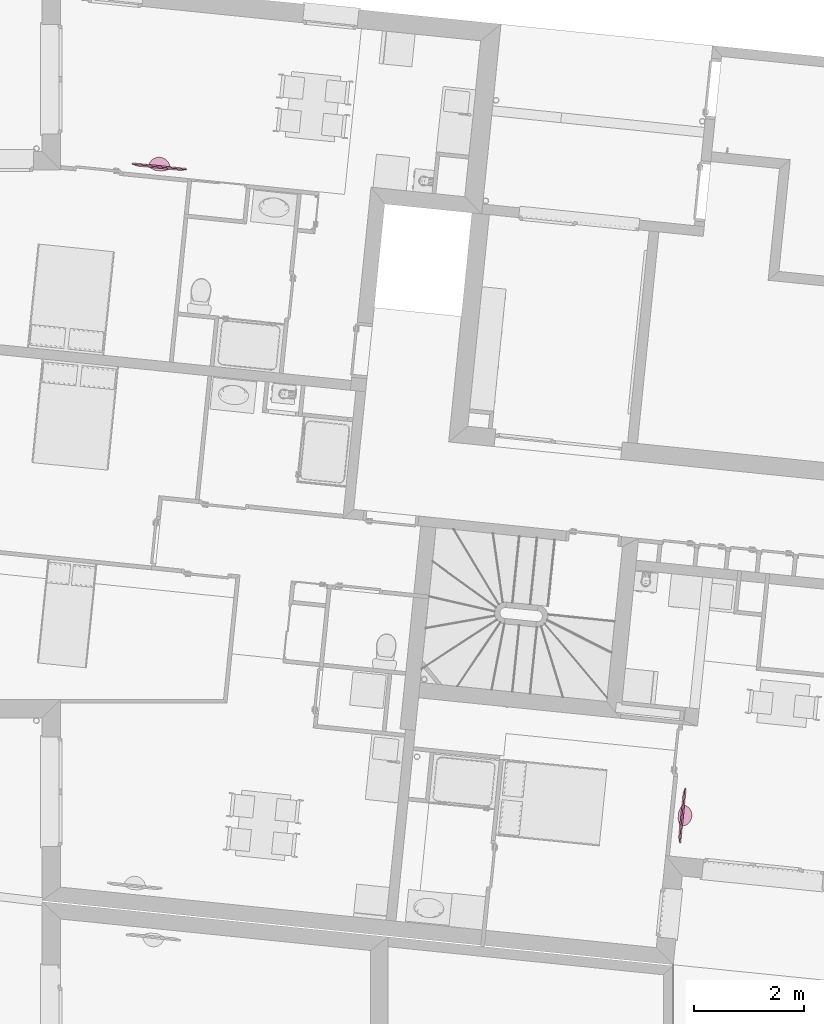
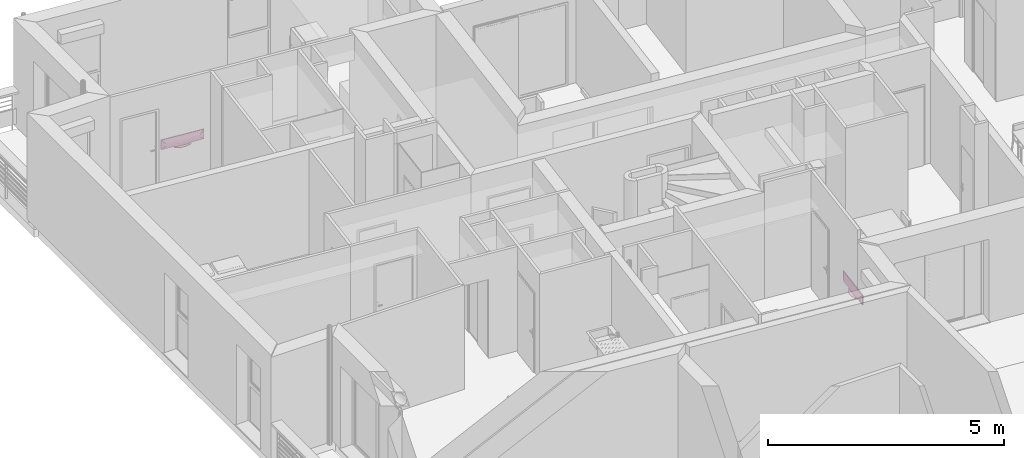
# One storey, part 139 of 171: 2 furnishings.
"""IFC2X3 building model written with IfcOpenShell, lengths in millimetres."""

import ifcopenshell
import ifcopenshell.guid

model = None  # the IFC model being written
_history = None  # IfcOwnerHistory: only IFC2X3 demands one
_inside = {}  # id of a spatial element -> (the spatial element, [elements in it])
_under = {}  # id of a project, library or spatial element -> (it, [spatial elements below it])
_declared = {}  # id of a project -> (the project, [libraries it declares])
_typed = {}  # id of a type object -> (the type object, [elements of that type])
_made_of = {}  # id of a material, layer set ... -> (it, [elements and type objects made of it])


def new_model(schema):
    """Start an empty IFC model of exactly this schema.

    Asked for "IFC4X3", IfcOpenShell would pick the latest addendum, in which some entities
    have other attributes; the version numbers below select the first issue.
    IFC2X3 requires an IfcOwnerHistory on every rooted entity: one is made here for all.
    """
    global model, _history
    if schema == "IFC4X3":
        model = ifcopenshell.file(schema_version=(4, 3, 0, 0))
    else:
        model = ifcopenshell.file(schema=schema)
    _inside.clear()
    _under.clear()
    _declared.clear()
    _typed.clear()
    _made_of.clear()
    _history = None
    if model.schema == "IFC2X3":
        org = make("IfcOrganization", Name="unknown")
        user = make(
            "IfcPersonAndOrganization",
            ThePerson=make("IfcPerson", FamilyName="unknown"),
            TheOrganization=org,
        )
        app = make(
            "IfcApplication",
            ApplicationDeveloper=org,
            Version="unknown",
            ApplicationFullName="unknown",
            ApplicationIdentifier="unknown",
        )
        _history = make(
            "IfcOwnerHistory",
            OwningUser=user,
            OwningApplication=app,
            ChangeAction="ADDED",
            CreationDate=0,
        )
    return model


def make(cls, **values):
    """One entity of the class cls with the attributes given. An attribute that is None is left unset."""
    return model.create_entity(
        cls, **{name: value for name, value in values.items() if value is not None}
    )


def entity(cls, *values):
    """Any entity or typed value of the class cls, its attributes in the order of the schema. None: left unset."""
    e = model.create_entity(cls)
    for i, value in enumerate(values):
        if value is not None:
            e[i] = value
    return e


def rooted(cls, **values):
    """An entity with a GlobalId (a new one), such as an element, a storey or a relation."""
    return make(cls, GlobalId=ifcopenshell.guid.new(), OwnerHistory=_history, **values)


def si_unit(unit_type, name, prefix=None):
    """IfcSIUnit, for example si_unit("LENGTHUNIT", "METRE", prefix="MILLI")."""
    return make("IfcSIUnit", UnitType=unit_type, Prefix=prefix, Name=name)


def converted_unit(unit_type, name, factor, base, dimensions=None, offset=None):
    """IfcConversionBasedUnit, such as the inch: factor (a typed value) times the base unit."""
    return make(
        "IfcConversionBasedUnit"
        if offset is None
        else "IfcConversionBasedUnitWithOffset",
        ConversionOffset=offset,
        Dimensions=None
        if dimensions is None
        else entity("IfcDimensionalExponents", *dimensions),
        UnitType=unit_type,
        Name=name,
        ConversionFactor=make(
            "IfcMeasureWithUnit", ValueComponent=factor, UnitComponent=base
        ),
    )


def derived_unit(unit_type, elements):
    """IfcDerivedUnit: a product of units, each with its exponent."""
    return make(
        "IfcDerivedUnit",
        Elements=[
            make("IfcDerivedUnitElement", Unit=unit, Exponent=power)
            for unit, power in elements
        ],
        UnitType=unit_type,
    )


def money_unit(currency):
    """IfcMonetaryUnit."""
    return make("IfcMonetaryUnit", Currency=currency)


def assignment(units):
    """IfcUnitAssignment: the units of a project."""
    return None if units is None else make("IfcUnitAssignment", Units=units)


def point(xyz):
    """IfcCartesianPoint."""
    return None if xyz is None else make("IfcCartesianPoint", Coordinates=xyz)


def direction(xyz):
    """IfcDirection."""
    return None if xyz is None else make("IfcDirection", DirectionRatios=xyz)


def frame(location, z_axis=None, x_axis=None):
    """IfcAxis2Placement3D, a coordinate frame: its origin and axes. An axis left out is left unset."""
    return make(
        "IfcAxis2Placement3D",
        Location=point(location),
        Axis=direction(z_axis),
        RefDirection=direction(x_axis),
    )


def origin_with_axes():
    """The frame at (0, 0, 0) with the z axis (0, 0, 1) and the x axis (1, 0, 0) written out."""
    return frame((0.0, 0.0, 0.0), z_axis=(0.0, 0.0, 1.0), x_axis=(1.0, 0.0, 0.0))


def place(relative_to, where):
    """IfcLocalPlacement: puts the frame where relative to a parent placement (None: the world)."""
    return make(
        "IfcLocalPlacement", PlacementRelTo=relative_to, RelativePlacement=where
    )


def context(
    kind, dimensions, precision=None, world=None, true_north=None, identifier=None
):
    """IfcGeometricRepresentationContext, for example the 3D "Model" context."""
    return make(
        "IfcGeometricRepresentationContext",
        ContextIdentifier=identifier,
        ContextType=kind,
        CoordinateSpaceDimension=dimensions,
        Precision=precision,
        WorldCoordinateSystem=world,
        TrueNorth=true_north,
    )


def subcontext(parent, identifier, kind, view, scale=None):
    """IfcGeometricRepresentationSubContext, for example "Body" below "Model"."""
    return make(
        "IfcGeometricRepresentationSubContext",
        ContextIdentifier=identifier,
        ContextType=kind,
        ParentContext=parent,
        TargetScale=scale,
        TargetView=view,
    )


def project(units=None, contexts=None):
    """IfcProject with its units and contexts."""
    return rooted(
        "IfcProject",
        Name="project",
        RepresentationContexts=contexts,
        UnitsInContext=assignment(units),
    )


def spatial(cls, under=None, at=None, **own):
    """A site, building, storey or space (cls), placed at a placement, below another one or the project."""
    s = rooted(cls, ObjectPlacement=at, **own)
    if under is not None:
        _under.setdefault(under.id(), (under, []))[1].append(s)
    return s


def faces_of(points, faces, orient=None, outer=None):
    """IfcFace entities. A face is a list of loops; a loop is a list of indices into points, from 0.

    orient and outer hold one flag for each loop. By default every Orientation is true, the
    first loop of a face is its IfcFaceOuterBound and the others are IfcFaceBound.
    """
    made = []
    for i, loops in enumerate(faces):
        bounds = []
        for j, loop in enumerate(loops):
            is_outer = j == 0 if outer is None else outer[i][j]
            bounds.append(
                make(
                    "IfcFaceOuterBound" if is_outer else "IfcFaceBound",
                    Bound=make("IfcPolyLoop", Polygon=[points[k] for k in loop]),
                    Orientation=True if orient is None else orient[i][j],
                )
            )
        made.append(make("IfcFace", Bounds=bounds))
    return made


def faceted_brep(points, faces, orient=None, outer=None, voids=None):
    """IfcFacetedBrep: a solid bounded by flat faces; with voids (closed shells), ...WithVoids."""
    shared = [point(p) for p in points]
    hull = make("IfcClosedShell", CfsFaces=faces_of(shared, faces, orient, outer))
    if voids is None:
        return make("IfcFacetedBrep", Outer=hull)
    return make(
        "IfcFacetedBrepWithVoids",
        Outer=hull,
        Voids=[
            make(cls, CfsFaces=faces_of(shared, fs, o, b)) for cls, fs, o, b in voids
        ],
    )


def shape(context_of_items, identifier, shape_type, items):
    """IfcShapeRepresentation: the items that make up one representation, for example the "Body"."""
    return make(
        "IfcShapeRepresentation",
        ContextOfItems=context_of_items,
        RepresentationIdentifier=identifier,
        RepresentationType=shape_type,
        Items=items,
    )


def source(mapping_origin, context_of_items, identifier, shape_type, items):
    """IfcRepresentationMap: a shape defined once, which mapped items show again and again."""
    return make(
        "IfcRepresentationMap",
        MappingOrigin=mapping_origin,
        MappedRepresentation=shape(context_of_items, identifier, shape_type, items),
    )


def transform(
    local_origin,
    x_axis=None,
    y_axis=None,
    z_axis=None,
    scale=None,
    scale2=None,
    scale3=None,
    uniform=True,
):
    """IfcCartesianTransformationOperator3D, or its non-uniform kind. x_axis, y_axis, z_axis: its Axis1, 2, 3."""
    if uniform:
        return make(
            "IfcCartesianTransformationOperator3D",
            Axis1=direction(x_axis),
            Axis2=direction(y_axis),
            LocalOrigin=point(local_origin),
            Scale=scale,
            Axis3=direction(z_axis),
        )
    return make(
        "IfcCartesianTransformationOperator3DnonUniform",
        Axis1=direction(x_axis),
        Axis2=direction(y_axis),
        LocalOrigin=point(local_origin),
        Scale=scale,
        Axis3=direction(z_axis),
        Scale2=scale2,
        Scale3=scale3,
    )


def mapped(mapping_source, mapping_target):
    """IfcMappedItem: shows the shape of a source again, moved by a transform."""
    return make(
        "IfcMappedItem", MappingSource=mapping_source, MappingTarget=mapping_target
    )


def made_of(thing, what):
    """Note that an element or type object is made of a material, layer set ...; save() writes the relation."""
    if what is not None:
        _made_of.setdefault(what.id(), (what, []))[1].append(thing)
    return thing


def type_object(cls, material=None, **own):
    """A type object (cls), such as IfcWallType, which elements share."""
    return made_of(rooted(cls, **own), material)


def element(
    cls,
    number,
    at=None,
    inside=None,
    cuts=None,
    type_object=None,
    material=None,
    context=None,
    identifier="Body",
    shape_type=None,
    held_by="IfcProductDefinitionShape",
    body=None,
    shapes=None,
    **own,
):
    """One element of the class cls, such as IfcWall. Its Tag is "e" and its number.

    at: its placement. inside: the storey or other place that contains it. cuts: it is an
    opening in that element (IfcRelVoidsElement). A single representation is given by context,
    identifier, shape_type and body (its items); several are given by shapes. held_by: the class
    of the entity that holds the representations. save() writes the other relations.
    """
    e = rooted(cls, Tag="e%d" % number, ObjectPlacement=at, **own)
    if body is not None:
        shapes = [shape(context, identifier, shape_type, body)]
    if shapes is not None:
        e.Representation = make(held_by, Representations=shapes)
    if inside is not None:
        _inside.setdefault(inside.id(), (inside, []))[1].append(e)
    if cuts is not None:
        rooted(
            "IfcRelVoidsElement", RelatingBuildingElement=cuts, RelatedOpeningElement=e
        )
    if type_object is not None:
        _typed.setdefault(type_object.id(), (type_object, []))[1].append(e)
    return made_of(e, material)


def aggregate(whole, parts):
    """IfcRelAggregates: a whole, such as a stair, and the parts it consists of."""
    return rooted("IfcRelAggregates", RelatingObject=whole, RelatedObjects=parts)


def save(model, path):
    """Write the relations noted so far, then the file.

    IfcRelAggregates (storeys below a building ...), IfcRelContainedInSpatialStructure (elements
    in a storey), IfcRelDefinesByType, IfcRelAssociatesMaterial and IfcRelDeclares: one each for
    every whole, place, type object, material and project.
    """
    for whole, parts in _under.values():
        aggregate(whole, parts)
    for where, things in _inside.values():
        rooted(
            "IfcRelContainedInSpatialStructure",
            RelatedElements=things,
            RelatingStructure=where,
        )
    for kind, things in _typed.values():
        rooted("IfcRelDefinesByType", RelatedObjects=things, RelatingType=kind)
    for what, things in _made_of.values():
        rooted("IfcRelAssociatesMaterial", RelatedObjects=things, RelatingMaterial=what)
    for by, libraries in _declared.values():
        rooted("IfcRelDeclares", RelatingContext=by, RelatedDefinitions=libraries)
    model.write(path)


model = new_model("IFC2X3")

# Units and contexts
model_context = context("Model", 3, precision=0.01, world=origin_with_axes(), true_north=direction((0.0, 1.0)))
body_context = subcontext(model_context, "Body", "Model", "MODEL_VIEW")
ifc_project = project(units=[si_unit("LENGTHUNIT", "METRE", prefix="MILLI"), si_unit("AREAUNIT", "SQUARE_METRE"), si_unit("VOLUMEUNIT", "CUBIC_METRE"), converted_unit("PLANEANGLEUNIT", "DEGREE", entity("IfcPlaneAngleMeasure", 0.0174532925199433), si_unit("PLANEANGLEUNIT", "RADIAN"), dimensions=[0, 0, 0, 0, 0, 0, 0]), money_unit("USD"), converted_unit("TIMEUNIT", "Year", entity("IfcTimeMeasure", 31557600.0), si_unit("TIMEUNIT", "SECOND"), dimensions=[0, 0, 1, 0, 0, 0, 0]), si_unit("MASSUNIT", "GRAM", prefix="KILO"), si_unit("THERMODYNAMICTEMPERATUREUNIT", "DEGREE_CELSIUS"), si_unit("LUMINOUSINTENSITYUNIT", "LUMEN"), si_unit("ENERGYUNIT", "JOULE", prefix="MEGA"), derived_unit("THERMALCONDUCTANCEUNIT", [(si_unit("POWERUNIT", "WATT"), 1), (si_unit("LENGTHUNIT", "METRE"), -1), (si_unit("THERMODYNAMICTEMPERATUREUNIT", "KELVIN"), -1)]), derived_unit("SPECIFICHEATCAPACITYUNIT", [(si_unit("ENERGYUNIT", "JOULE"), 1), (si_unit("MASSUNIT", "GRAM", prefix="KILO"), -1), (si_unit("THERMODYNAMICTEMPERATUREUNIT", "KELVIN"), -1)]), derived_unit("MASSDENSITYUNIT", [(si_unit("MASSUNIT", "GRAM", prefix="KILO"), 1), (si_unit("VOLUMEUNIT", "CUBIC_METRE"), -1)])], contexts=[model_context])

# Site, building, storey
site_placement = place(None, origin_with_axes())
site = spatial("IfcSite", under=ifc_project, at=site_placement, Name="Site", CompositionType="ELEMENT")
building_placement = place(site_placement, origin_with_axes())
building = spatial("IfcBuilding", under=site, at=building_placement, Name="Bâtiment", CompositionType="ELEMENT")
storey_placement = place(building_placement, frame((0.0, 0.0, 3000.0), z_axis=(0.0, 0.0, 1.0), x_axis=(1.0, 0.0, 0.0)))
storey = spatial("IfcBuildingStorey", under=building, at=storey_placement, Name="rdc", CompositionType="ELEMENT", Elevation=3000.0)

# Furnishings
furnishing_element_type = type_object("IfcFurnishingElementType", Name="Ecran TV plasma")
shared_shape = source(origin_with_axes(), body_context, "Body", "Brep", [
    faceted_brep([(300.0, 45.45454545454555, 0.0), (311.9952377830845, -22.76722074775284, 0.0), (311.9952377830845, -22.76722074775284, 12.72727272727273), (300.0, 45.45454545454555, 12.72727272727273), (300.362869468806, 45.66379498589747, 0.0), (430.8157560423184, 93.01588086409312, 0.0), (569.5967719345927, 92.94321528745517, 0.0), (700.0000000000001, 45.45454545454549, 0.0), (699.9923846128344, 43.70923835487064, 0.0), (687.402263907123, -24.40525330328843, 0.0), (652.3327960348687, -84.13989598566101, 0.0), (598.9906470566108, -128.3293772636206, 0.0), (533.7743345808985, -151.6730637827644, 0.0), (464.5067103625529, -151.3708248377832, 0.0), (399.4965906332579, -127.4589147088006, 0.0), (346.5420938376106, -82.80562387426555, 0.0), (346.5420938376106, -82.80562387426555, 12.72727272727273), (399.4965906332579, -127.4589147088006, 12.72727272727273), (464.5067103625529, -151.3708248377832, 12.72727272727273), (533.7743345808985, -151.6730637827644, 12.72727272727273), (598.9906470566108, -128.3293772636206, 12.72727272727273), (652.3327960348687, -84.13989598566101, 12.72727272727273), (687.402263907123, -24.40525330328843, 12.72727272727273), (699.9923846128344, 43.70923835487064, 12.72727272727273), (700.0000000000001, 45.45454545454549, 12.72727272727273), (569.5967719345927, 92.94321528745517, 12.72727272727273), (430.8157560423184, 93.01588086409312, 12.72727272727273), (300.362869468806, 45.66379498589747, 12.72727272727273)], [[[0, 1, 2, 3]], [[0, 4, 5, 6, 7, 8, 9, 10, 11, 12, 13, 14, 15, 1]], [[1, 15, 16, 2]], [[3, 2, 16, 17, 18, 19, 20, 21, 22, 23, 24, 25, 26, 27]], [[4, 0, 3, 27]], [[5, 4, 27, 26]], [[6, 5, 26, 25]], [[7, 6, 25, 24]], [[8, 7, 24, 23]], [[9, 8, 23, 22]], [[10, 9, 22, 21]], [[11, 10, 21, 20]], [[12, 11, 20, 19]], [[13, 12, 19, 18]], [[14, 13, 18, 17]], [[15, 14, 17, 16]]]),
    faceted_brep([(666.6666666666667, 2.500000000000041, 12.72727272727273), (666.6666666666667, 22.50000000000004, 12.72727272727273), (666.6666666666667, 22.50000000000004, 25.45454545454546), (666.6666666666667, 2.500000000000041, 25.45454545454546), (333.3333333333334, 2.500000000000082, 12.72727272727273), (333.3333333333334, 22.50000000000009, 12.72727272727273), (333.3333333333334, 22.50000000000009, 25.45454545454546), (333.3333333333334, 2.500000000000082, 25.45454545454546)], [[[0, 1, 2, 3]], [[0, 4, 5, 1]], [[1, 5, 6, 2]], [[3, 2, 6, 7]], [[4, 0, 3, 7]], [[5, 4, 7, 6]]]),
    faceted_brep([(62.5, -0.2539999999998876, 65.45454545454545), (62.5, -0.2539999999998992, 254.5454545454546), (62.5, 0.0, 254.5454545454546), (62.5, 0.0, 65.45454545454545), (937.5, -0.2539999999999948, 65.45454545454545), (937.5, -0.2540000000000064, 254.5454545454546), (937.5, 0.0, 254.5454545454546), (937.5, 0.0, 65.45454545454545)], [[[0, 1, 2, 3]], [[0, 4, 5, 1]], [[1, 5, 6, 2]], [[3, 2, 6, 7]], [[4, 0, 3, 7]], [[5, 4, 7, 6]]]),
    faceted_brep([(937.5, 0.0, 25.45454545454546), (1000.0, 0.0, 31.81818181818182), (1000.0, 0.0, 280.0), (0.0, 0.0, 280.0), (0.0, 0.0, 31.81818181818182), (62.5, 0.0, 25.45454545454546), (937.5000003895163, 25.00000000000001, 25.4545450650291), (1000.000000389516, 25.0, 31.81818187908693), (1000.000000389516, 24.99999999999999, 279.9999999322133), (3.895163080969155e-07, 25.00000000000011, 279.9999999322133), (3.895163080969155e-07, 25.00000000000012, 31.81818187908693), (62.50000038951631, 25.00000000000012, 25.4545450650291), (934.156616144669, 42.64268163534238, 91.29792930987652), (906.6987288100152, 50.00000037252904, 118.7558166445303), (906.6987288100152, 50.00000037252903, 186.6987283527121), (93.30127196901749, 50.00000037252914, 186.6987283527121), (93.30127196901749, 50.00000037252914, 118.7558166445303), (65.84338463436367, 42.64268163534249, 91.29792930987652)], [[[0, 1, 2, 3, 4, 5]], [[1, 0, 6, 7]], [[2, 1, 7, 8]], [[3, 2, 8, 9]], [[4, 3, 9, 10]], [[5, 4, 10, 11]], [[0, 5, 11, 6]], [[7, 6, 12]], [[8, 7, 12, 13, 14]], [[9, 8, 14, 15]], [[10, 9, 15, 16, 17]], [[11, 10, 17]], [[6, 11, 17, 16, 13, 12]], [[14, 13, 16, 15]]]),
    faceted_brep([(500.0, -0.7937499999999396, 39.45454545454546), (490.0, -0.7937499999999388, 46.45454545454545), (490.0, 0.0, 46.45454545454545), (500.0, 0.0, 39.45454545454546), (510.0, -0.7937499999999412, 46.45454545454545), (600.0, -0.7937499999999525, 52.18181818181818), (400.0, -0.7937499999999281, 52.18181818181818), (400.0, 0.0, 52.18181818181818), (600.0, 0.0, 52.18181818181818), (510.0, 0.0, 46.45454545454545)], [[[0, 1, 2, 3]], [[0, 4, 5, 6, 1]], [[1, 6, 7, 2]], [[3, 2, 7, 8, 9]], [[4, 0, 3, 9]], [[5, 4, 9, 8]], [[6, 5, 8, 7]]]),
    faceted_brep([(866.6666666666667, 10.0, 280.0), (933.3333333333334, 9.999999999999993, 280.0), (933.3333333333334, 9.999999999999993, 281.5875), (866.6666666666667, 10.0, 281.5875), (866.6666666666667, 16.25, 280.0), (933.3333333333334, 16.24999999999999, 280.0), (933.3333333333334, 16.24999999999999, 281.5875), (866.6666666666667, 16.25, 281.5875)], [[[0, 1, 2, 3]], [[1, 0, 4, 5]], [[2, 1, 5, 6]], [[3, 2, 6, 7]], [[0, 3, 7, 4]], [[5, 4, 7, 6]]]),
    faceted_brep([(795.2380952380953, 10.00000000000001, 280.0), (861.9047619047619, 10.0, 280.0), (861.9047619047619, 10.0, 281.5875), (795.2380952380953, 10.00000000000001, 281.5875), (795.2380952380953, 16.25000000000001, 280.0), (861.9047619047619, 16.25, 280.0), (861.9047619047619, 16.25, 281.5875), (795.2380952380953, 16.25000000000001, 281.5875)], [[[0, 1, 2, 3]], [[1, 0, 4, 5]], [[2, 1, 5, 6]], [[3, 2, 6, 7]], [[0, 3, 7, 4]], [[5, 4, 7, 6]]]),
    faceted_brep([(757.1428571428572, 10.00000000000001, 280.0), (790.4761904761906, 10.00000000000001, 280.0), (790.4761904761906, 10.00000000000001, 281.5875), (757.1428571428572, 10.00000000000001, 281.5875), (757.1428571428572, 16.25000000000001, 280.0), (790.4761904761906, 16.25000000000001, 280.0), (790.4761904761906, 16.25000000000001, 281.5875), (757.1428571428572, 16.25000000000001, 281.5875)], [[[0, 1, 2, 3]], [[1, 0, 4, 5]], [[2, 1, 5, 6]], [[3, 2, 6, 7]], [[0, 3, 7, 4]], [[5, 4, 7, 6]]]),
])
for number, where, z_axis, x_axis, name in (
    (1, (2229792.980814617, -619787.7911412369, 800.0000000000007), (0.0, 0.0, 1.0), (0.1005080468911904, 0.9949362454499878, 0.0), "Obj.-034"),
    (2, (2220775.438018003, -607478.6573065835, 800.0000000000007), (0.0, 0.0, 1.0), (-0.9948759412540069, 0.1011032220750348, 0.0), "Obj.-034"),
):
    element("IfcFurnishingElement", number, at=place(storey_placement, frame(where, z_axis=z_axis, x_axis=x_axis)), inside=storey, type_object=furnishing_element_type, Name=name, context=body_context, shape_type="MappedRepresentation", body=[
        mapped(shared_shape, transform((0.0, 0.0, 0.0))),
    ])

save(model, "model.ifc")
